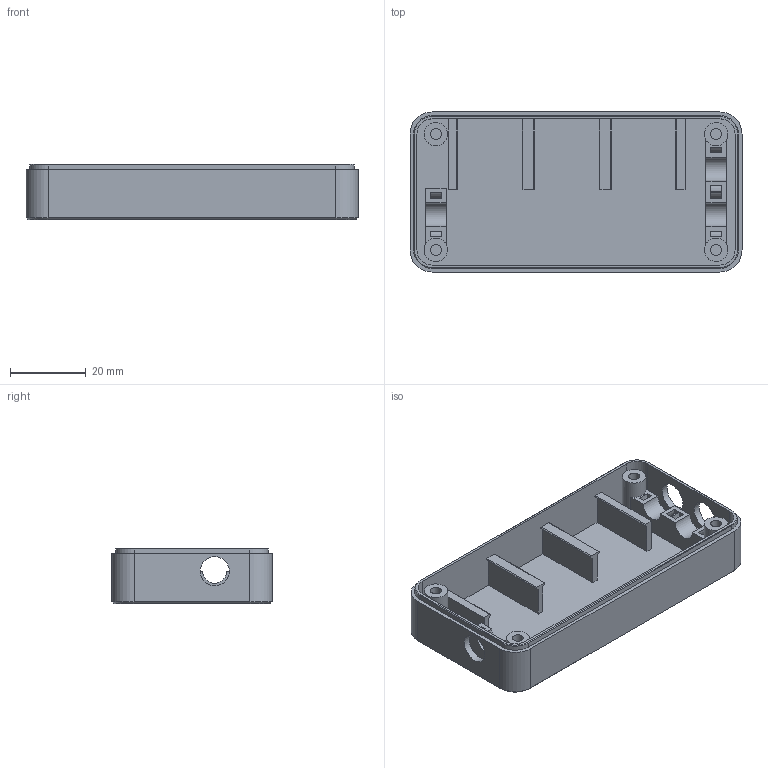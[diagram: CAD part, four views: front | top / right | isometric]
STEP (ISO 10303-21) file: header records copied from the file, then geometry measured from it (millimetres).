
FILE_DESCRIPTION(/* description */ ('','CAx-IF Rec.Pracs.---Representation and Presentation of Product Manufacturing Information (PMI)---4.0---2014-10-13'),/* implementation_level */ '2;1');
FILE_NAME(/* name */ 'Box.step',/* time_stamp */ '2025-01-06T17:55:57+01:00',/* author */ (''),/* organization */ (''),/* preprocessor_version */ 'ST-DEVELOPER v20',/* originating_system */ 'Autodesk Translation Framework v13.20.0.188',/* authorisation */ '');
FILE_SCHEMA (('AP242_MANAGED_MODEL_BASED_3D_ENGINEERING_MIM_LF { 1 0 10303 442 1 1 4 }'));
Length unit declared in the file: millimetre
Products named in the file (1): Box
Bounding box: 87.68 x 42.28 x 14.7 mm (x, y, z)
Volume: 13205.1 mm3; surface area: 17698.6 mm2
Topology: 1 solids, 1 shells, 116 faces, 299 edges, 194 vertices
Faces by surface type: plane 70, cylinder 38, cone 8
Full cylindrical faces by diameter (mm): 2.9 x4, 6.18 x4, 7.7 x3
Entity records: 3582 total; most frequent: DIRECTION 623, CARTESIAN_POINT 610, ORIENTED_EDGE 598, EDGE_CURVE 299, LINE 209, VECTOR 209, AXIS2_PLACEMENT_3D 207, VERTEX_POINT 194
